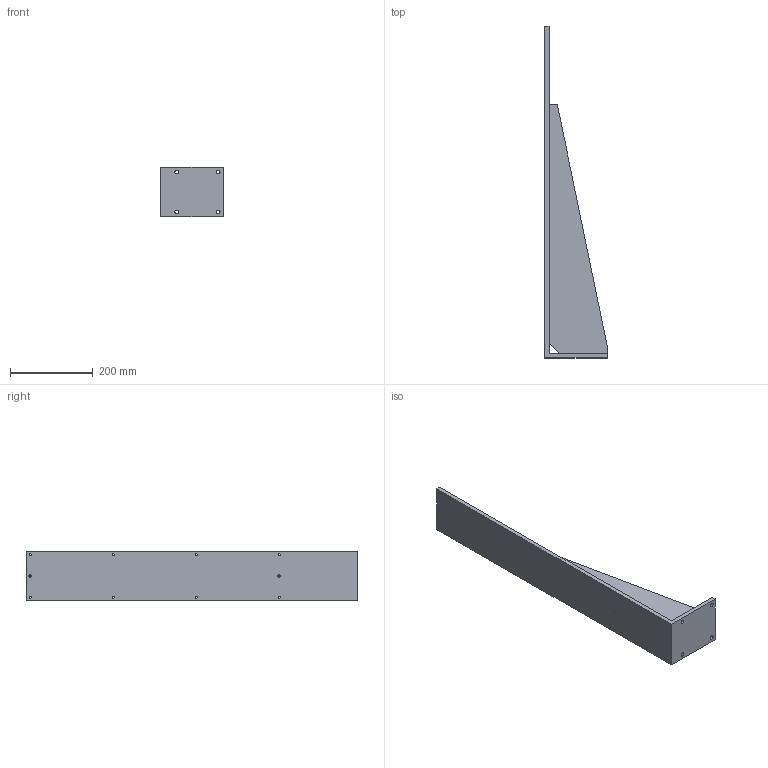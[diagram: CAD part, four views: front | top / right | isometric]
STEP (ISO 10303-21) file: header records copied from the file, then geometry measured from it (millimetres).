
FILE_DESCRIPTION (( 'STEP AP214' ), '1' );
FILE_NAME ('嘇_WS12娃敖剔坠.STEP', '2024-05-01T07:17:57', ( '' ), ( '' ), 'SwSTEP 2.0', 'SolidWorks 2023', '' );
FILE_SCHEMA (( 'AUTOMOTIVE_DESIGN' ));
Length unit declared in the file: millimetre
Products named in the file (1): ②_WS12ﾍﾞｰｽﾌﾞﾗｹｯﾄ
Bounding box: 150 x 800 x 120 mm (x, y, z)
Volume: 1563306.5 mm3; surface area: 358622.2 mm2
Topology: 2 solids, 2 shells, 47 faces, 126 edges, 84 vertices
Faces by surface type: cylinder 30, plane 17
Entity records: 1588 total; most frequent: DIRECTION 282, CARTESIAN_POINT 258, ORIENTED_EDGE 252, EDGE_CURVE 126, AXIS2_PLACEMENT_3D 108, VERTEX_POINT 84, EDGE_LOOP 76, LINE 66
